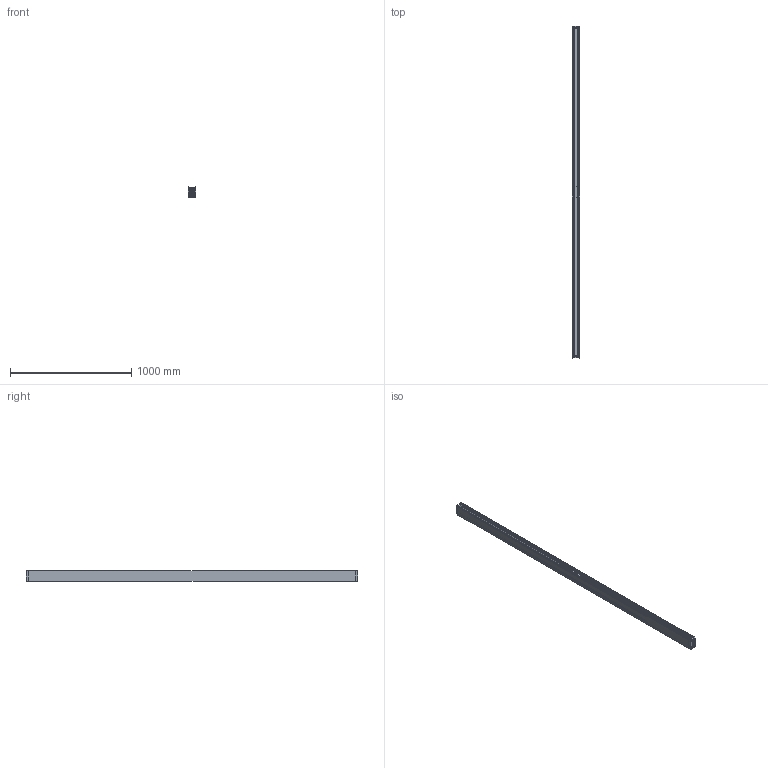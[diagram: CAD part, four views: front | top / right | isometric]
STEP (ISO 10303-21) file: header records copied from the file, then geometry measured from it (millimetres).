
FILE_DESCRIPTION (( 'STEP AP214' ), '1' );
FILE_NAME ('1001887.STEP', '2025-10-06T09:28:11', ( '' ), ( '' ), 'SwSTEP 2.0', 'SolidWorks 2025', '' );
FILE_SCHEMA (( 'AUTOMOTIVE_DESIGN' ));
Length unit declared in the file: millimetre
Products named in the file (1): 1001887
Bounding box: 60 x 2740 x 86 mm (x, y, z)
Volume: 5418990.9 mm3; surface area: 1814611.6 mm2
Topology: 6 solids, 6 shells, 429 faces, 1229 edges, 812 vertices
Faces by surface type: plane 251, cylinder 170, bspline 8
Entity records: 14523 total; most frequent: CARTESIAN_POINT 3089, ORIENTED_EDGE 2458, DIRECTION 2327, EDGE_CURVE 1229, VECTOR 863, LINE 863, VERTEX_POINT 812, AXIS2_PLACEMENT_3D 732
